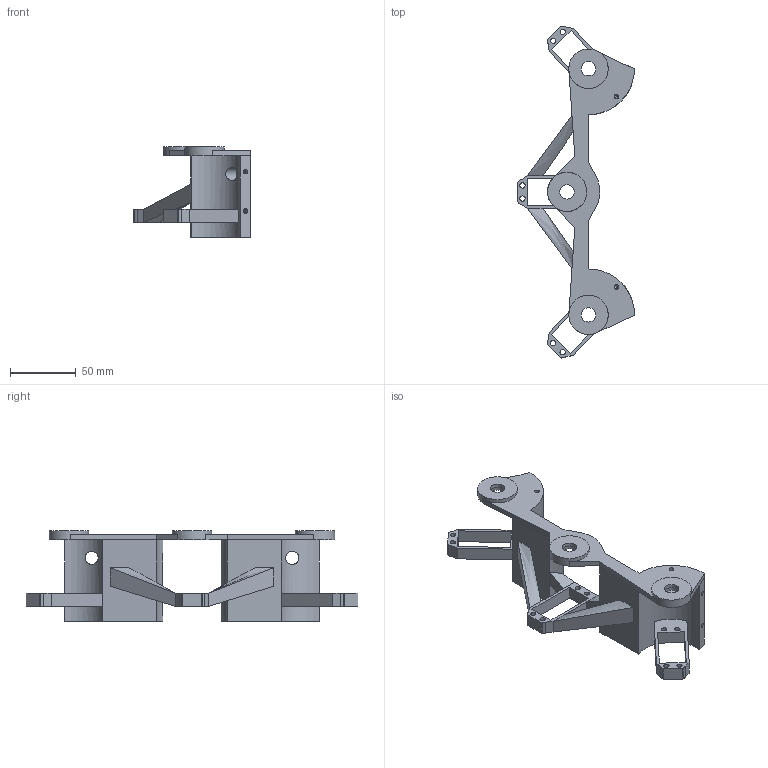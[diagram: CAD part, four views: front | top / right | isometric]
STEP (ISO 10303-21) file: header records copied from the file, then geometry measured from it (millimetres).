
FILE_DESCRIPTION(/* description */ (''),/* implementation_level */ '2;1');
FILE_NAME(/* name */ 'left_mount.step',/* time_stamp */ '2026-06-11T18:39:22-06:00',/* author */ (''),/* organization */ (''),/* preprocessor_version */ 'ST-DEVELOPER v20.1',/* originating_system */ 'Autodesk Translation Framework v15.8.0.0',/* authorisation */ '');
FILE_SCHEMA (('AUTOMOTIVE_DESIGN { 1 0 10303 214 3 1 1 }'));
Length unit declared in the file: millimetre
Products named in the file (1): left_mount
Bounding box: 89.04 x 252.8 x 69 mm (x, y, z)
Volume: 157275.1 mm3; surface area: 60055.9 mm2
Topology: 1 solids, 1 shells, 167 faces, 417 edges, 267 vertices
Faces by surface type: plane 86, cylinder 61, cone 12, bspline 8
Full cylindrical faces by diameter (mm): 2.5 x12, 3.5 x12, 4 x12, 10 x2, 11 x3, 15.1 x3, 30 x3
Entity records: 5268 total; most frequent: CARTESIAN_POINT 1136, DIRECTION 838, ORIENTED_EDGE 810, EDGE_CURVE 405, AXIS2_PLACEMENT_3D 289, VERTEX_POINT 267, LINE 260, VECTOR 260
